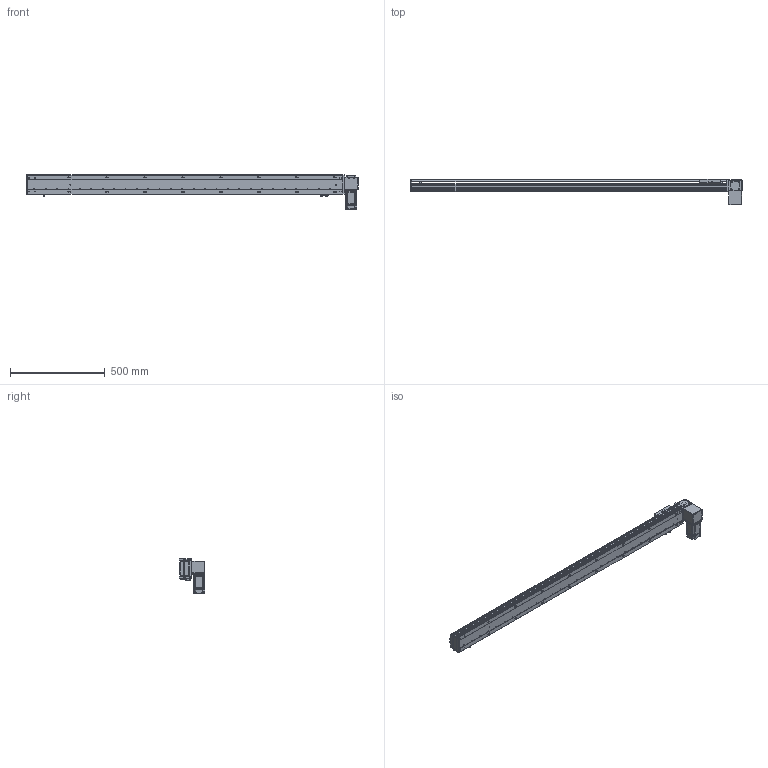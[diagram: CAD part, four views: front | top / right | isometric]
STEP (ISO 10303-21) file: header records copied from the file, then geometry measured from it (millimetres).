
FILE_DESCRIPTION (( 'STEP AP203' ), '1' );
FILE_NAME ('RY100-T-300-DL.SLDASM_1450.step', '2024-04-24T01:12:06', ( '盈信电脑' ), ( '东莞市道滘镇水果街19号' ), 'SwSTEP 2.0', 'SolidWorks 2016', '' );
FILE_SCHEMA (( 'CONFIG_CONTROL_DESIGN' ));
Length unit declared in the file: millimetre
Products named in the file (16): RY100-T左右折电机安装板; RY100-T粣創揤踡裔; 滅袉蝶18-10; 覜茼ん672; RY100俋离覜茼え; RY100-T翋肮祭謫裔啣2; RY100-T肮祭謫翋盓傅釱; RY100-T-300-RK倰第菁釱_1450; RY100綴裔啣; RY100-T肮祭謫臏賑輸; RY80-T肮祭謫狟殏俋欶; RY100-T翋肮祭謫粣; RY100-T翋肮祭謫裔啣; 1; RY100-T-300-RK倰第奻裔_1450; RY100-T-300-DL.SLDASM_1450
Assembly tree (18 placements, depth 2):
  RY100-T-300-DL.SLDASM_1450
    RY100-T-300-RK倰第菁釱_1450
    RY100-T-300-RK倰第奻裔_1450
    RY100-T肮祭謫臏賑輸
    RY100綴裔啣
    覜茼ん672  x3
    RY100俋离覜茼え
    RY100-T翋肮祭謫粣
    RY100-T肮祭謫翋盓傅釱
    滅袉蝶18-10  x2
    RY100-T翋肮祭謫裔啣
    1
    RY100-T左右折电机安装板
    RY100-T粣創揤踡裔
    RY100-T翋肮祭謫裔啣2
    RY80-T肮祭謫狟殏俋欶
Bounding box: 1750 x 135.5 x 182.5 mm (x, y, z)
Volume: 3362252.8 mm3; surface area: 1404521.4 mm2
Topology: 18 solids, 18 shells, 2265 faces, 6286 edges, 4082 vertices
Faces by surface type: plane 1215, cylinder 831, cone 141, bspline 78
Entity records: 73149 total; most frequent: CARTESIAN_POINT 17592, ORIENTED_EDGE 11404, DIRECTION 10906, EDGE_CURVE 5702, VERTEX_POINT 3750, LINE 3656, VECTOR 3656, AXIS2_PLACEMENT_3D 3625
